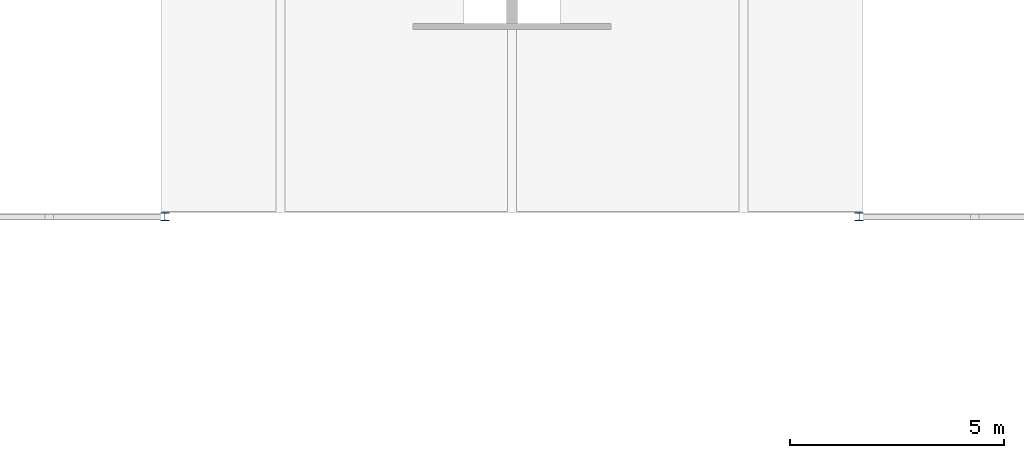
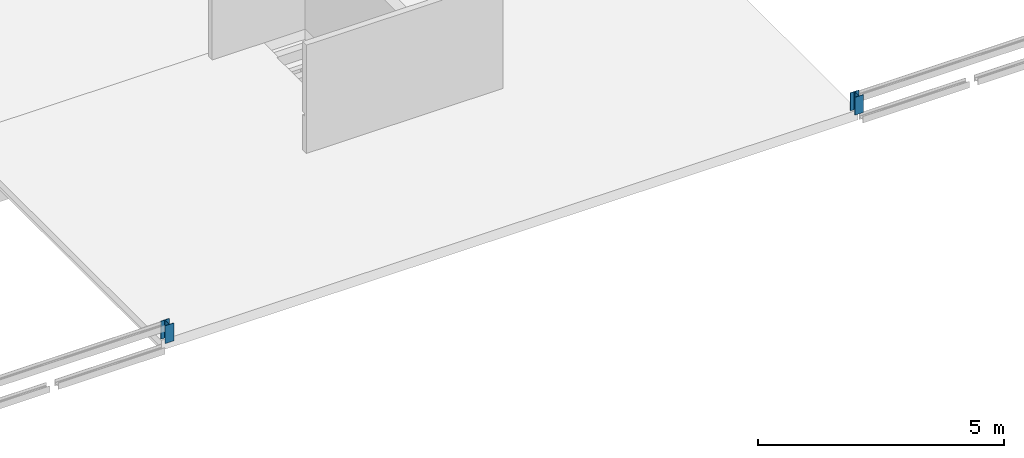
# One storey, part 5 of 36: 2 columns.
"""IFC2X3 building model written with IfcOpenShell, lengths in millimetres."""

from ifc_helpers import new_model, entity, si_unit, converted_unit, derived_unit, direction, frame, frame_2d, origin, place, context, subcontext, project, spatial, polyline, circle_curve, parameter, trimmed, segment, composite_curve, outline, extrude, source, transform, mapped, material, type_object, type_shapes, element, save


model = new_model("IFC2X3")

# Units and contexts
model_context = context("Model", 3, precision=0.01, world=origin(), true_north=direction((6.12303176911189e-17, 1.0)))
body_context = subcontext(model_context, "Body", "Model", "MODEL_VIEW")
ifc_project = project(units=[si_unit("LENGTHUNIT", "METRE", prefix="MILLI"), si_unit("AREAUNIT", "SQUARE_METRE"), si_unit("VOLUMEUNIT", "CUBIC_METRE"), converted_unit("PLANEANGLEUNIT", "DEGREE", entity("IfcRatioMeasure", 0.0174532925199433), si_unit("PLANEANGLEUNIT", "RADIAN"), dimensions=[0, 0, 0, 0, 0, 0, 0]), si_unit("MASSUNIT", "GRAM", prefix="KILO"), derived_unit("MASSDENSITYUNIT", [(si_unit("MASSUNIT", "GRAM", prefix="KILO"), 1), (si_unit("LENGTHUNIT", "METRE"), -3)]), si_unit("TIMEUNIT", "SECOND"), si_unit("FREQUENCYUNIT", "HERTZ"), si_unit("THERMODYNAMICTEMPERATUREUNIT", "DEGREE_CELSIUS"), derived_unit("THERMALTRANSMITTANCEUNIT", [(si_unit("MASSUNIT", "GRAM", prefix="KILO"), 1), (si_unit("THERMODYNAMICTEMPERATUREUNIT", "KELVIN"), -1), (si_unit("TIMEUNIT", "SECOND"), -3)]), derived_unit("VOLUMETRICFLOWRATEUNIT", [(si_unit("LENGTHUNIT", "METRE"), 3), (si_unit("TIMEUNIT", "SECOND"), -1)]), si_unit("ELECTRICCURRENTUNIT", "AMPERE"), si_unit("ELECTRICVOLTAGEUNIT", "VOLT"), si_unit("POWERUNIT", "WATT"), si_unit("FORCEUNIT", "NEWTON", prefix="KILO"), si_unit("ILLUMINANCEUNIT", "LUX"), si_unit("LUMINOUSFLUXUNIT", "LUMEN"), si_unit("LUMINOUSINTENSITYUNIT", "CANDELA"), derived_unit("USERDEFINED", [(si_unit("MASSUNIT", "GRAM", prefix="KILO"), -1), (si_unit("LENGTHUNIT", "METRE"), -2), (si_unit("TIMEUNIT", "SECOND"), 3), (si_unit("LUMINOUSFLUXUNIT", "LUMEN"), 1)]), derived_unit("LINEARVELOCITYUNIT", [(si_unit("LENGTHUNIT", "METRE"), 1), (si_unit("TIMEUNIT", "SECOND"), -1)]), si_unit("PRESSUREUNIT", "PASCAL"), derived_unit("USERDEFINED", [(si_unit("LENGTHUNIT", "METRE"), -2), (si_unit("MASSUNIT", "GRAM", prefix="KILO"), 1), (si_unit("TIMEUNIT", "SECOND"), -2)])], contexts=[model_context])

# Site, building, storey
site_placement = place(None, origin())
site = spatial("IfcSite", under=ifc_project, at=site_placement, Name="Default", CompositionType="ELEMENT")
building_placement = place(site_placement, origin())
building = spatial("IfcBuilding", under=site, at=building_placement, Name="niet gebruiken", CompositionType="ELEMENT")
storey_placement = place(building_placement, frame((0.0, 0.0, 12600.0)))
storey = spatial("IfcBuildingStorey", under=building, at=storey_placement, Name="04 vierde verdieping", CompositionType="ELEMENT", Elevation=12600.0)

# Columns
ifc_material = material(Name="NLRS_h2_staal")
column_type = type_object("IfcColumnType", Name="kolom HEA 200", PredefinedType="COLUMN", material=ifc_material)
shared_shape = source(origin(), body_context, "Body", "SweptSolid", [
    extrude(outline(composite_curve([segment(polyline([(85.0, -100.0), (95.0, -100.0)]), True, "CONTINUOUS"), segment(polyline([(95.0, -100.0), (95.0, 100.0)]), True, "CONTINUOUS"), segment(polyline([(95.0, 100.0), (85.0, 100.0)]), True, "CONTINUOUS"), segment(polyline([(85.0, 100.0), (85.0, 21.2499999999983)]), True, "CONTINUOUS"), segment(trimmed(circle_curve(frame_2d((67.0, 21.2499999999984), x_axis=(1.0, 0.0)), 18.0), [parameter(270.0)], [parameter(0.0)], True, "PARAMETER"), False, "CONTINUOUS"), segment(polyline([(67.0, 3.24999999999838), (-67.0, 3.24999999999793)]), True, "CONTINUOUS"), segment(trimmed(circle_curve(frame_2d((-67.0, 21.2499999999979), x_axis=(0.0, -1.0)), 18.0), [parameter(270.0)], [parameter(0.0)], True, "PARAMETER"), False, "CONTINUOUS"), segment(polyline([(-85.0, 21.2499999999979), (-85.0, 100.0)]), True, "CONTINUOUS"), segment(polyline([(-85.0, 100.0), (-95.0, 100.0)]), True, "CONTINUOUS"), segment(polyline([(-95.0, 100.0), (-95.0, -100.0)]), True, "CONTINUOUS"), segment(polyline([(-95.0, -100.0), (-85.0, -100.0)]), True, "CONTINUOUS"), segment(polyline([(-85.0, -100.0), (-85.0, -21.250000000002)]), True, "CONTINUOUS"), segment(trimmed(circle_curve(frame_2d((-67.0, -21.2500000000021), x_axis=(-1.0, 0.0)), 18.0), [parameter(270.0)], [parameter(0.0)], True, "PARAMETER"), False, "CONTINUOUS"), segment(polyline([(-67.0, -3.25000000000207), (67.0, -3.25000000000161)]), True, "CONTINUOUS"), segment(trimmed(circle_curve(frame_2d((67.0, -21.2500000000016), x_axis=(0.0, 1.0)), 18.0), [parameter(270.0)], [parameter(0.0)], True, "PARAMETER"), False, "CONTINUOUS"), segment(polyline([(85.0, -21.2500000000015), (85.0, -100.0)]), True, "CONTINUOUS")], self_intersect=False)), frame((0.0, 0.0, 12555.0), z_axis=(0.0, 0.0, 1.0), x_axis=(0.0, -1.0, 0.0)), (0.0, 0.0, 1.0), 445.000000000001),
])
type_shapes(column_type, [shared_shape])
for number, where, z_axis, x_axis, name in (
    (1, (32400.0, 300.0, -12600.0), (0.0, 0.0, 1.0), (-1.0, 0.0, 0.0), "NLRS_28.11_SCO_TLB_stalen kolom HEA_gen:kolom HEA 200"),
    (2, (48600.0, 300.0, -12600.0), (0.0, 0.0, 1.0), (-1.0, 0.0, 0.0), "NLRS_28.11_SCO_TLB_stalen kolom HEA_gen:kolom HEA 200"),
):
    element("IfcColumn", number, at=place(storey_placement, frame(where, z_axis=z_axis, x_axis=x_axis)), inside=storey, type_object=column_type, material=ifc_material, Name=name, ObjectType="kolom HEA 200", context=body_context, shape_type="MappedRepresentation", body=[
        mapped(shared_shape, transform((0.0, 0.0, 0.0), scale=1.0)),
    ])

save(model, "model.ifc")
